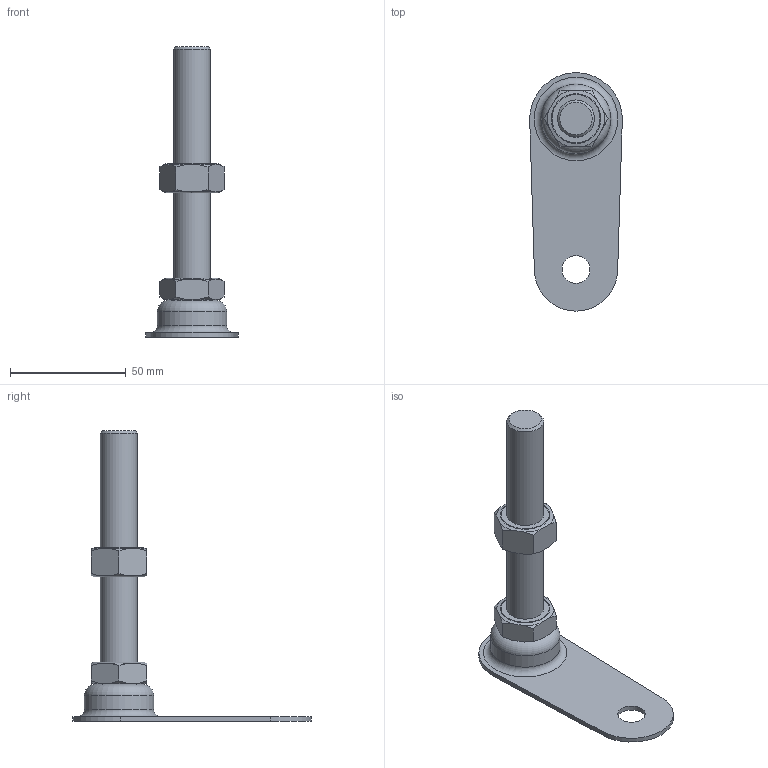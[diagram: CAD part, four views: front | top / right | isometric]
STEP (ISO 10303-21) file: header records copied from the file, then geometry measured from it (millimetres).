
FILE_DESCRIPTION(('STEP AP214'),'1');
FILE_NAME('AK16B.stp','2024-03-01T06:51:54',(' '),(' '),'Spatial InterOp 3D',' ',' ');
FILE_SCHEMA(('AUTOMOTIVE_DESIGN { 1 0 10303 214 1 1 1 1 }'));
Length unit declared in the file: millimetre
Products named in the file (3): AK16B; パーツ21
Assembly tree (2 placements, depth 2):
  AK16B
    AK16B
    パーツ21
Bounding box: 39.96 x 102.93 x 125.5 mm (x, y, z)
Volume: 39946 mm3; surface area: 18217.3 mm2
Topology: 2 solids, 2 shells, 84 faces, 215 edges, 140 vertices
Faces by surface type: cone 37, plane 35, cylinder 8, torus 4
Full cylindrical faces by diameter (mm): 10 x1, 12 x1, 16 x2, 26 x1, 30 x1
Entity records: 3324 total; most frequent: CARTESIAN_POINT 809, ORIENTED_EDGE 368, DIRECTION 330, EDGE_CURVE 184, AXIS2_PLACEMENT_3D 149, VERTEX_POINT 132, EDGE_LOOP 116, FACE_OUTER_BOUND 94
